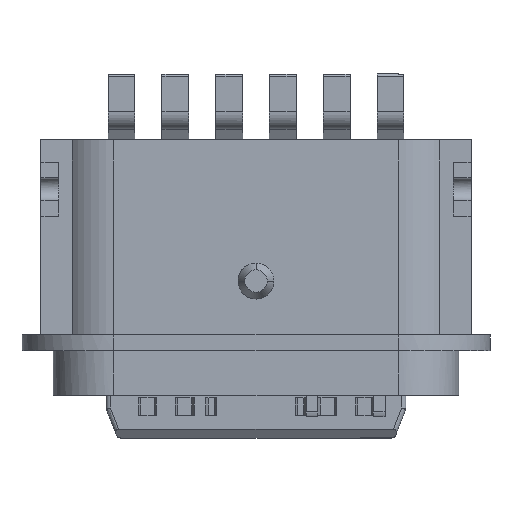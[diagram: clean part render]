
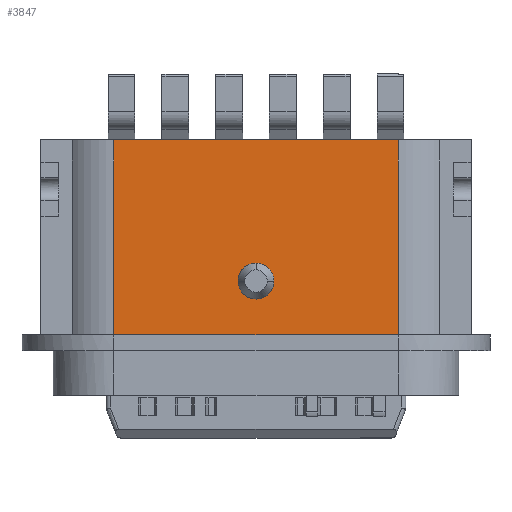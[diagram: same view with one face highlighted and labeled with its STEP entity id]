
A CAD part, front view. The second image highlights one B-rep face of the part: STEP entity #3847.
In plain terms, the highlighted free-form (B-spline) face has degree [1, 1] with [2, 2] control points.
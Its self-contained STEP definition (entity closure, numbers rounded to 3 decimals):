
#195 = EDGE_CURVE ( 'NONE', #5166, #10700, #13321, .T. ) ;
#290 = CARTESIAN_POINT ( 'NONE',  ( -0.415, -1.59, 3.95 ) ) ;
#454 = FACE_BOUND ( 'NONE', #5758, .T. ) ;
#731 = VERTEX_POINT ( 'NONE', #6800 ) ;
#744 = CARTESIAN_POINT ( 'NONE',  ( -0.249, -1.59, 4.35 ) ) ;
#1080 = B_SPLINE_CURVE_WITH_KNOTS ( 'NONE', 1,
 ( #14253, #5518 ),
 .UNSPECIFIED., .F., .F.,
 ( 2, 2 ),
 ( 0., 1. ),
 .UNSPECIFIED. ) ;
#1129 = ORIENTED_EDGE ( 'NONE', *, *, #8458, .F. ) ;
#1418 = EDGE_CURVE ( 'NONE', #10700, #5166, #11361, .T. ) ;
#1759 = CARTESIAN_POINT ( 'NONE',  ( 3.282, -1.59, 7.187 ) ) ;
#1784 = CARTESIAN_POINT ( 'NONE',  ( -0.415, -1.59, 3.95 ) ) ;
#1924 = EDGE_CURVE ( 'NONE', #9999, #731, #6507, .T. ) ;
#2050 = CARTESIAN_POINT ( 'NONE',  ( -0.415, -1.59, 3.95 ) ) ;
#3080 = CARTESIAN_POINT ( 'NONE',  ( -0.015, -1.59, 4.35 ) ) ;
#3447 = ORIENTED_EDGE ( 'NONE', *, *, #6601, .F. ) ;
#3552 = CARTESIAN_POINT ( 'NONE',  ( 3.155, -1.59, 2.75 ) ) ;
#3847 = ADVANCED_FACE ( 'NONE', ( #454, #8287 ), #10166, .F. ) ;
#3995 = EDGE_LOOP ( 'NONE', ( #3447, #10201, #1129, #6607 ) ) ;
#4387 = EDGE_CURVE ( 'NONE', #9252, #5779, #6384, .T. ) ;
#4785 = CARTESIAN_POINT ( 'NONE',  ( -3.185, -1.59, 7.1 ) ) ;
#5166 = VERTEX_POINT ( 'NONE', #8510 ) ;
#5518 = CARTESIAN_POINT ( 'NONE',  ( -3.185, -1.59, 7.1 ) ) ;
#5684 = CARTESIAN_POINT ( 'NONE',  ( 0.385, -1.59, 3.95 ) ) ;
#5758 = EDGE_LOOP ( 'NONE', ( #5785, #7523 ) ) ;
#5779 = VERTEX_POINT ( 'NONE', #12491 ) ;
#5785 = ORIENTED_EDGE ( 'NONE', *, *, #1418, .F. ) ;
#6088 = CARTESIAN_POINT ( 'NONE',  ( 3.155, -1.59, 7.1 ) ) ;
#6191 = CARTESIAN_POINT ( 'NONE',  ( 3.282, -1.59, 2.663 ) ) ;
#6384 = B_SPLINE_CURVE_WITH_KNOTS ( 'NONE', 1,
 ( #6657, #12257 ),
 .UNSPECIFIED., .F., .F.,
 ( 2, 2 ),
 ( 0., 1. ),
 .UNSPECIFIED. ) ;
#6507 = B_SPLINE_CURVE_WITH_KNOTS ( 'NONE', 1,
 ( #4785, #6088 ),
 .UNSPECIFIED., .F., .F.,
 ( 2, 2 ),
 ( 0., 1. ),
 .UNSPECIFIED. ) ;
#6601 = EDGE_CURVE ( 'NONE', #5779, #9999, #1080, .T. ) ;
#6607 = ORIENTED_EDGE ( 'NONE', *, *, #1924, .F. ) ;
#6657 = CARTESIAN_POINT ( 'NONE',  ( 3.155, -1.59, 2.75 ) ) ;
#6800 = CARTESIAN_POINT ( 'NONE',  ( 3.155, -1.59, 7.1 ) ) ;
#6901 = CARTESIAN_POINT ( 'NONE',  ( 0.385, -1.59, 3.15 ) ) ;
#7204 = CARTESIAN_POINT ( 'NONE',  ( -3.312, -1.59, 2.663 ) ) ;
#7388 = B_SPLINE_CURVE_WITH_KNOTS ( 'NONE', 1,
 ( #9024, #7926 ),
 .UNSPECIFIED., .F., .F.,
 ( 2, 2 ),
 ( 0., 1. ),
 .UNSPECIFIED. ) ;
#7523 = ORIENTED_EDGE ( 'NONE', *, *, #195, .F. ) ;
#7926 = CARTESIAN_POINT ( 'NONE',  ( 3.155, -1.59, 2.75 ) ) ;
#8287 = FACE_OUTER_BOUND ( 'NONE', #3995, .T. ) ;
#8430 = CARTESIAN_POINT ( 'NONE',  ( 0.385, -1.59, 4.184 ) ) ;
#8458 = EDGE_CURVE ( 'NONE', #731, #9252, #7388, .T. ) ;
#8510 = CARTESIAN_POINT ( 'NONE',  ( 0.385, -1.59, 3.95 ) ) ;
#8711 = CARTESIAN_POINT ( 'NONE',  ( -3.185, -1.59, 7.1 ) ) ;
#9024 = CARTESIAN_POINT ( 'NONE',  ( 3.155, -1.59, 7.1 ) ) ;
#9252 = VERTEX_POINT ( 'NONE', #3552 ) ;
#9674 = CARTESIAN_POINT ( 'NONE',  ( 0.219, -1.59, 4.35 ) ) ;
#9999 = VERTEX_POINT ( 'NONE', #8711 ) ;
#10166 = B_SPLINE_SURFACE_WITH_KNOTS ( 'NONE', 1, 1, ( 
 ( #12733, #7204 ),
 ( #1759, #6191 ) ),
 .UNSPECIFIED., .F., .F., .F.,
 ( 2, 2 ),
 ( 2, 2 ),
 ( -3.297, 3.297 ),
 ( -2.262, 2.262 ),
 .UNSPECIFIED. ) ;
#10201 = ORIENTED_EDGE ( 'NONE', *, *, #4387, .F. ) ;
#10700 = VERTEX_POINT ( 'NONE', #1784 ) ;
#11361 =( BOUNDED_CURVE ( )  B_SPLINE_CURVE ( 3, ( #290, #12364, #6901, #5684 ),
 .UNSPECIFIED., .F., .F. ) 
 B_SPLINE_CURVE_WITH_KNOTS ( ( 4, 4 ),
 ( 0., 3.142 ),
 .UNSPECIFIED. ) 
 CURVE ( )  GEOMETRIC_REPRESENTATION_ITEM ( )  RATIONAL_B_SPLINE_CURVE ( ( 1., 0.333, 0.333, 1. ) ) 
 REPRESENTATION_ITEM ( '' )  );
#12001 = CARTESIAN_POINT ( 'NONE',  ( -0.415, -1.59, 4.184 ) ) ;
#12257 = CARTESIAN_POINT ( 'NONE',  ( -3.185, -1.59, 2.75 ) ) ;
#12364 = CARTESIAN_POINT ( 'NONE',  ( -0.415, -1.59, 3.15 ) ) ;
#12491 = CARTESIAN_POINT ( 'NONE',  ( -3.185, -1.59, 2.75 ) ) ;
#12733 = CARTESIAN_POINT ( 'NONE',  ( -3.312, -1.59, 7.187 ) ) ;
#13321 =( BOUNDED_CURVE ( )  B_SPLINE_CURVE ( 3, ( #13976, #8430, #9674, #3080, #744, #12001, #2050 ),
 .UNSPECIFIED., .F., .F. ) 
 B_SPLINE_CURVE_WITH_KNOTS ( ( 4, 3, 4 ),
 ( 0., 1.571, 3.142 ),
 .UNSPECIFIED. ) 
 CURVE ( )  GEOMETRIC_REPRESENTATION_ITEM ( )  RATIONAL_B_SPLINE_CURVE ( ( 1., 0.805, 0.805, 1., 0.805, 0.805, 1. ) ) 
 REPRESENTATION_ITEM ( '' )  );
#13976 = CARTESIAN_POINT ( 'NONE',  ( 0.385, -1.59, 3.95 ) ) ;
#14253 = CARTESIAN_POINT ( 'NONE',  ( -3.185, -1.59, 2.75 ) ) ;
